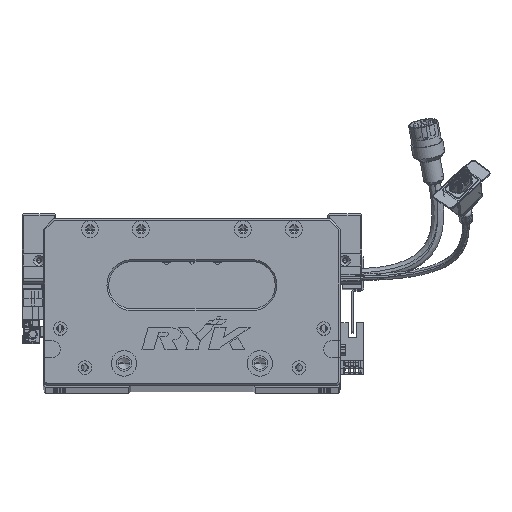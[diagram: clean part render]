
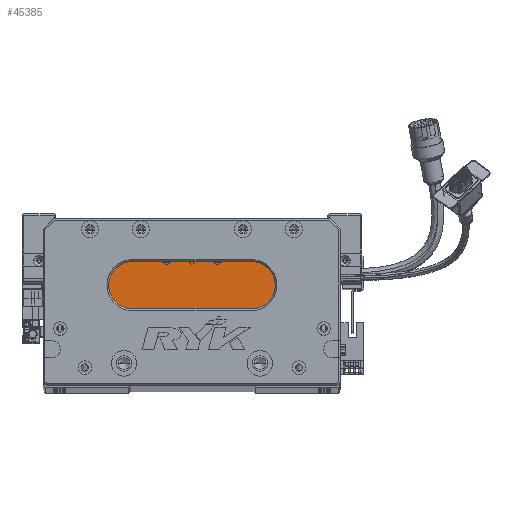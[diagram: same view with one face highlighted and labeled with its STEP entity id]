
A CAD part, top view. The second image highlights one B-rep face of the part: STEP entity #45385.
In plain terms, the highlighted planar face has unit normal (0, 0, 1) as drawn and (0, 0, -1) by its records, which use the part's own axes.
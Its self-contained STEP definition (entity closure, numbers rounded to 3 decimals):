
#288 = DIRECTION ( 'NONE',  ( -1., 0., 0. ) ) ;
#2006 = AXIS2_PLACEMENT_3D ( 'NONE', #84177, #64407, #288 ) ;
#2618 = CARTESIAN_POINT ( 'NONE',  ( 52.5, 59., 18. ) ) ;
#3023 = DIRECTION ( 'NONE',  ( 0., 0., -1. ) ) ;
#5000 = ORIENTED_EDGE ( 'NONE', *, *, #76416, .T. ) ;
#6531 = DIRECTION ( 'NONE',  ( 1., 0., 0. ) ) ;
#8561 = CARTESIAN_POINT ( 'NONE',  ( 52.5, 45., 18. ) ) ;
#8571 = EDGE_CURVE ( 'NONE', #31836, #59732, #17702, .T. ) ;
#11469 = CIRCLE ( 'NONE', #20828, 14. ) ;
#11546 = DIRECTION ( 'NONE',  ( -1., 0., 0. ) ) ;
#17702 = LINE ( 'NONE', #61785, #113006 ) ;
#20828 = AXIS2_PLACEMENT_3D ( 'NONE', #33990, #79579, #71098 ) ;
#22751 = CIRCLE ( 'NONE', #80989, 14. ) ;
#27834 = DIRECTION ( 'NONE',  ( 0., 0., -1. ) ) ;
#31836 = VERTEX_POINT ( 'NONE', #68784 ) ;
#33990 = CARTESIAN_POINT ( 'NONE',  ( 122.5, 59., 18. ) ) ;
#36550 = PLANE ( 'NONE',  #2006 ) ;
#45061 = DIRECTION ( 'NONE',  ( -1., 0., 0. ) ) ;
#45385 = ADVANCED_FACE ( 'NONE', ( #87852 ), #36550, .T. ) ;
#45674 = CARTESIAN_POINT ( 'NONE',  ( 122.5, 45., 18. ) ) ;
#46453 = ORIENTED_EDGE ( 'NONE', *, *, #8571, .T. ) ;
#47602 = CIRCLE ( 'NONE', #82516, 14. ) ;
#52842 = EDGE_CURVE ( 'NONE', #61508, #105211, #47602, .T. ) ;
#54265 = ORIENTED_EDGE ( 'NONE', *, *, #119325, .T. ) ;
#56113 = CARTESIAN_POINT ( 'NONE',  ( 38.5, 59., 18. ) ) ;
#56848 = VECTOR ( 'NONE', #45061, 1000. ) ;
#59732 = VERTEX_POINT ( 'NONE', #71120 ) ;
#61508 = VERTEX_POINT ( 'NONE', #8561 ) ;
#61785 = CARTESIAN_POINT ( 'NONE',  ( 122.5, 73., 18. ) ) ;
#62614 = VERTEX_POINT ( 'NONE', #45674 ) ;
#62803 = ORIENTED_EDGE ( 'NONE', *, *, #52842, .T. ) ;
#64407 = DIRECTION ( 'NONE',  ( 0., 0., -1. ) ) ;
#67192 = ORIENTED_EDGE ( 'NONE', *, *, #106279, .T. ) ;
#68784 = CARTESIAN_POINT ( 'NONE',  ( 52.5, 73., 18. ) ) ;
#71098 = DIRECTION ( 'NONE',  ( -1., 0., 0. ) ) ;
#71120 = CARTESIAN_POINT ( 'NONE',  ( 122.5, 73., 18. ) ) ;
#75419 = CARTESIAN_POINT ( 'NONE',  ( 52.5, 59., 18. ) ) ;
#76416 = EDGE_CURVE ( 'NONE', #62614, #61508, #110406, .T. ) ;
#79579 = DIRECTION ( 'NONE',  ( 0., 0., -1. ) ) ;
#80989 = AXIS2_PLACEMENT_3D ( 'NONE', #75419, #27834, #102528 ) ;
#82516 = AXIS2_PLACEMENT_3D ( 'NONE', #2618, #3023, #11546 ) ;
#84177 = CARTESIAN_POINT ( 'NONE',  ( 122.5, 59., 18. ) ) ;
#87852 = FACE_OUTER_BOUND ( 'NONE', #108272, .T. ) ;
#102528 = DIRECTION ( 'NONE',  ( -1., 0., 0. ) ) ;
#105211 = VERTEX_POINT ( 'NONE', #56113 ) ;
#106279 = EDGE_CURVE ( 'NONE', #105211, #31836, #22751, .T. ) ;
#108272 = EDGE_LOOP ( 'NONE', ( #54265, #5000, #62803, #67192, #46453 ) ) ;
#110086 = CARTESIAN_POINT ( 'NONE',  ( 122.5, 45., 18. ) ) ;
#110406 = LINE ( 'NONE', #110086, #56848 ) ;
#113006 = VECTOR ( 'NONE', #6531, 1000. ) ;
#119325 = EDGE_CURVE ( 'NONE', #59732, #62614, #11469, .T. ) ;
